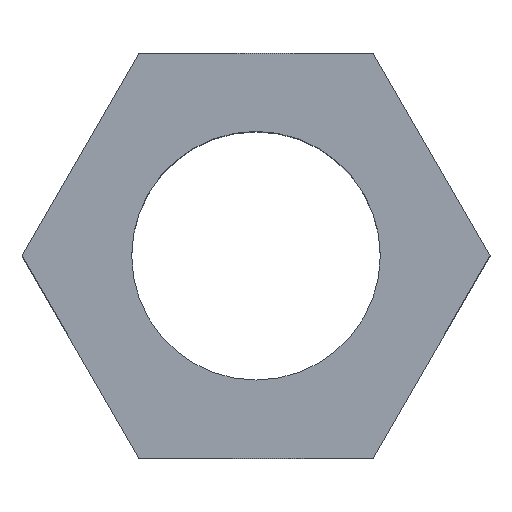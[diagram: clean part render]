
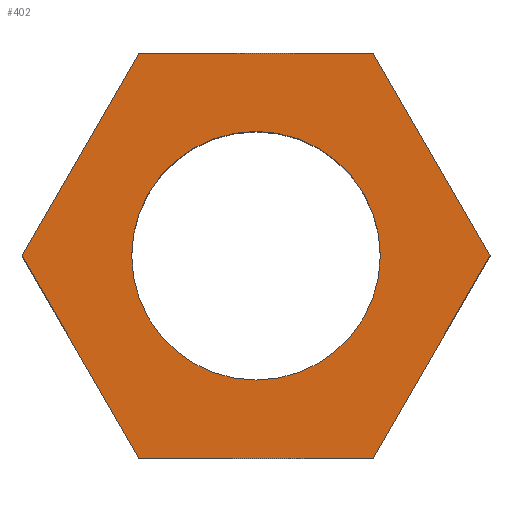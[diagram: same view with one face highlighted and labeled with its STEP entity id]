
A CAD part, top view. The second image highlights one B-rep face of the part: STEP entity #402.
In plain terms, the highlighted planar face has unit normal (0, 0, 1).
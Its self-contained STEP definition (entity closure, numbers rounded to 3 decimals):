
#24 = VERTEX_POINT('',#25);
#25 = CARTESIAN_POINT('',(-24.3,-17.5,4.002));
#32 = PLANE('',#33);
#33 = AXIS2_PLACEMENT_3D('',#34,#35,#36);
#34 = CARTESIAN_POINT('',(-24.3,-17.5,0.002));
#35 = DIRECTION('',(-0.866,-0.5,0.));
#36 = DIRECTION('',(-0.5,0.866,0.));
#44 = PLANE('',#45);
#45 = AXIS2_PLACEMENT_3D('',#46,#47,#48);
#46 = CARTESIAN_POINT('',(-25.9,-20.271,0.002));
#47 = DIRECTION('',(-0.866,0.5,0.));
#48 = DIRECTION('',(0.5,0.866,0.));
#56 = EDGE_CURVE('',#24,#57,#59,.T.);
#57 = VERTEX_POINT('',#58);
#58 = CARTESIAN_POINT('',(-25.9,-14.729,4.002));
#59 = SURFACE_CURVE('',#60,(#64,#71),.PCURVE_S1.);
#60 = LINE('',#61,#62);
#61 = CARTESIAN_POINT('',(-24.3,-17.5,4.002));
#62 = VECTOR('',#63,1.);
#63 = DIRECTION('',(-0.5,0.866,0.));
#64 = PCURVE('',#32,#65);
#65 = DEFINITIONAL_REPRESENTATION('',(#66),#70);
#66 = LINE('',#67,#68);
#67 = CARTESIAN_POINT('',(0.,-4.));
#68 = VECTOR('',#69,1.);
#69 = DIRECTION('',(1.,0.));
#70 = ( GEOMETRIC_REPRESENTATION_CONTEXT(2) 
PARAMETRIC_REPRESENTATION_CONTEXT() REPRESENTATION_CONTEXT('2D SPACE',''
  ) );
#71 = PCURVE('',#72,#77);
#72 = PLANE('',#73);
#73 = AXIS2_PLACEMENT_3D('',#74,#75,#76);
#74 = CARTESIAN_POINT('',(-27.5,-17.5,4.002));
#75 = DIRECTION('',(0.,0.,1.));
#76 = DIRECTION('',(1.,0.,-0.));
#77 = DEFINITIONAL_REPRESENTATION('',(#78),#82);
#78 = LINE('',#79,#80);
#79 = CARTESIAN_POINT('',(3.2,0.));
#80 = VECTOR('',#81,1.);
#81 = DIRECTION('',(-0.5,0.866));
#82 = ( GEOMETRIC_REPRESENTATION_CONTEXT(2) 
PARAMETRIC_REPRESENTATION_CONTEXT() REPRESENTATION_CONTEXT('2D SPACE',''
  ) );
#100 = PLANE('',#101);
#101 = AXIS2_PLACEMENT_3D('',#102,#103,#104);
#102 = CARTESIAN_POINT('',(-25.9,-14.729,0.002));
#103 = DIRECTION('',(0.,-1.,0.));
#104 = DIRECTION('',(-1.,0.,0.));
#144 = VERTEX_POINT('',#145);
#145 = CARTESIAN_POINT('',(-25.9,-20.271,4.002));
#159 = PLANE('',#160);
#160 = AXIS2_PLACEMENT_3D('',#161,#162,#163);
#161 = CARTESIAN_POINT('',(-29.1,-20.271,0.002));
#162 = DIRECTION('',(0.,1.,-0.));
#163 = DIRECTION('',(1.,0.,0.));
#171 = EDGE_CURVE('',#144,#24,#172,.T.);
#172 = SURFACE_CURVE('',#173,(#177,#184),.PCURVE_S1.);
#173 = LINE('',#174,#175);
#174 = CARTESIAN_POINT('',(-25.9,-20.271,4.002));
#175 = VECTOR('',#176,1.);
#176 = DIRECTION('',(0.5,0.866,0.));
#177 = PCURVE('',#44,#178);
#178 = DEFINITIONAL_REPRESENTATION('',(#179),#183);
#179 = LINE('',#180,#181);
#180 = CARTESIAN_POINT('',(0.,-4.));
#181 = VECTOR('',#182,1.);
#182 = DIRECTION('',(1.,0.));
#183 = ( GEOMETRIC_REPRESENTATION_CONTEXT(2) 
PARAMETRIC_REPRESENTATION_CONTEXT() REPRESENTATION_CONTEXT('2D SPACE',''
  ) );
#184 = PCURVE('',#72,#185);
#185 = DEFINITIONAL_REPRESENTATION('',(#186),#190);
#186 = LINE('',#187,#188);
#187 = CARTESIAN_POINT('',(1.6,-2.771));
#188 = VECTOR('',#189,1.);
#189 = DIRECTION('',(0.5,0.866));
#190 = ( GEOMETRIC_REPRESENTATION_CONTEXT(2) 
PARAMETRIC_REPRESENTATION_CONTEXT() REPRESENTATION_CONTEXT('2D SPACE',''
  ) );
#218 = EDGE_CURVE('',#57,#219,#221,.T.);
#219 = VERTEX_POINT('',#220);
#220 = CARTESIAN_POINT('',(-29.1,-14.729,4.002));
#221 = SURFACE_CURVE('',#222,(#226,#233),.PCURVE_S1.);
#222 = LINE('',#223,#224);
#223 = CARTESIAN_POINT('',(-25.9,-14.729,4.002));
#224 = VECTOR('',#225,1.);
#225 = DIRECTION('',(-1.,0.,0.));
#226 = PCURVE('',#100,#227);
#227 = DEFINITIONAL_REPRESENTATION('',(#228),#232);
#228 = LINE('',#229,#230);
#229 = CARTESIAN_POINT('',(0.,-4.));
#230 = VECTOR('',#231,1.);
#231 = DIRECTION('',(1.,0.));
#232 = ( GEOMETRIC_REPRESENTATION_CONTEXT(2) 
PARAMETRIC_REPRESENTATION_CONTEXT() REPRESENTATION_CONTEXT('2D SPACE',''
  ) );
#233 = PCURVE('',#72,#234);
#234 = DEFINITIONAL_REPRESENTATION('',(#235),#239);
#235 = LINE('',#236,#237);
#236 = CARTESIAN_POINT('',(1.6,2.771));
#237 = VECTOR('',#238,1.);
#238 = DIRECTION('',(-1.,0.));
#239 = ( GEOMETRIC_REPRESENTATION_CONTEXT(2) 
PARAMETRIC_REPRESENTATION_CONTEXT() REPRESENTATION_CONTEXT('2D SPACE',''
  ) );
#257 = PLANE('',#258);
#258 = AXIS2_PLACEMENT_3D('',#259,#260,#261);
#259 = CARTESIAN_POINT('',(-29.1,-14.729,0.002));
#260 = DIRECTION('',(0.866,-0.5,0.));
#261 = DIRECTION('',(-0.5,-0.866,0.));
#334 = PLANE('',#335);
#335 = AXIS2_PLACEMENT_3D('',#336,#337,#338);
#336 = CARTESIAN_POINT('',(-30.7,-17.5,0.002));
#337 = DIRECTION('',(0.866,0.5,-0.));
#338 = DIRECTION('',(0.5,-0.866,0.));
#391 = CYLINDRICAL_SURFACE('',#392,1.7);
#392 = AXIS2_PLACEMENT_3D('',#393,#394,#395);
#393 = CARTESIAN_POINT('',(-27.5,-17.5,-0.998));
#394 = DIRECTION('',(-0.,-0.,-1.));
#395 = DIRECTION('',(1.,0.,0.));
#402 = ADVANCED_FACE('',(#403,#475),#72,.T.);
#403 = FACE_BOUND('',#404,.T.);
#404 = EDGE_LOOP('',(#405,#406,#407,#430,#453,#474));
#405 = ORIENTED_EDGE('',*,*,#56,.T.);
#406 = ORIENTED_EDGE('',*,*,#218,.T.);
#407 = ORIENTED_EDGE('',*,*,#408,.T.);
#408 = EDGE_CURVE('',#219,#409,#411,.T.);
#409 = VERTEX_POINT('',#410);
#410 = CARTESIAN_POINT('',(-30.7,-17.5,4.002));
#411 = SURFACE_CURVE('',#412,(#416,#423),.PCURVE_S1.);
#412 = LINE('',#413,#414);
#413 = CARTESIAN_POINT('',(-29.1,-14.729,4.002));
#414 = VECTOR('',#415,1.);
#415 = DIRECTION('',(-0.5,-0.866,0.));
#416 = PCURVE('',#72,#417);
#417 = DEFINITIONAL_REPRESENTATION('',(#418),#422);
#418 = LINE('',#419,#420);
#419 = CARTESIAN_POINT('',(-1.6,2.771));
#420 = VECTOR('',#421,1.);
#421 = DIRECTION('',(-0.5,-0.866));
#422 = ( GEOMETRIC_REPRESENTATION_CONTEXT(2) 
PARAMETRIC_REPRESENTATION_CONTEXT() REPRESENTATION_CONTEXT('2D SPACE',''
  ) );
#423 = PCURVE('',#257,#424);
#424 = DEFINITIONAL_REPRESENTATION('',(#425),#429);
#425 = LINE('',#426,#427);
#426 = CARTESIAN_POINT('',(0.,-4.));
#427 = VECTOR('',#428,1.);
#428 = DIRECTION('',(1.,0.));
#429 = ( GEOMETRIC_REPRESENTATION_CONTEXT(2) 
PARAMETRIC_REPRESENTATION_CONTEXT() REPRESENTATION_CONTEXT('2D SPACE',''
  ) );
#430 = ORIENTED_EDGE('',*,*,#431,.T.);
#431 = EDGE_CURVE('',#409,#432,#434,.T.);
#432 = VERTEX_POINT('',#433);
#433 = CARTESIAN_POINT('',(-29.1,-20.271,4.002));
#434 = SURFACE_CURVE('',#435,(#439,#446),.PCURVE_S1.);
#435 = LINE('',#436,#437);
#436 = CARTESIAN_POINT('',(-30.7,-17.5,4.002));
#437 = VECTOR('',#438,1.);
#438 = DIRECTION('',(0.5,-0.866,0.));
#439 = PCURVE('',#72,#440);
#440 = DEFINITIONAL_REPRESENTATION('',(#441),#445);
#441 = LINE('',#442,#443);
#442 = CARTESIAN_POINT('',(-3.2,0.));
#443 = VECTOR('',#444,1.);
#444 = DIRECTION('',(0.5,-0.866));
#445 = ( GEOMETRIC_REPRESENTATION_CONTEXT(2) 
PARAMETRIC_REPRESENTATION_CONTEXT() REPRESENTATION_CONTEXT('2D SPACE',''
  ) );
#446 = PCURVE('',#334,#447);
#447 = DEFINITIONAL_REPRESENTATION('',(#448),#452);
#448 = LINE('',#449,#450);
#449 = CARTESIAN_POINT('',(0.,-4.));
#450 = VECTOR('',#451,1.);
#451 = DIRECTION('',(1.,0.));
#452 = ( GEOMETRIC_REPRESENTATION_CONTEXT(2) 
PARAMETRIC_REPRESENTATION_CONTEXT() REPRESENTATION_CONTEXT('2D SPACE',''
  ) );
#453 = ORIENTED_EDGE('',*,*,#454,.T.);
#454 = EDGE_CURVE('',#432,#144,#455,.T.);
#455 = SURFACE_CURVE('',#456,(#460,#467),.PCURVE_S1.);
#456 = LINE('',#457,#458);
#457 = CARTESIAN_POINT('',(-29.1,-20.271,4.002));
#458 = VECTOR('',#459,1.);
#459 = DIRECTION('',(1.,0.,0.));
#460 = PCURVE('',#72,#461);
#461 = DEFINITIONAL_REPRESENTATION('',(#462),#466);
#462 = LINE('',#463,#464);
#463 = CARTESIAN_POINT('',(-1.6,-2.771));
#464 = VECTOR('',#465,1.);
#465 = DIRECTION('',(1.,0.));
#466 = ( GEOMETRIC_REPRESENTATION_CONTEXT(2) 
PARAMETRIC_REPRESENTATION_CONTEXT() REPRESENTATION_CONTEXT('2D SPACE',''
  ) );
#467 = PCURVE('',#159,#468);
#468 = DEFINITIONAL_REPRESENTATION('',(#469),#473);
#469 = LINE('',#470,#471);
#470 = CARTESIAN_POINT('',(0.,-4.));
#471 = VECTOR('',#472,1.);
#472 = DIRECTION('',(1.,0.));
#473 = ( GEOMETRIC_REPRESENTATION_CONTEXT(2) 
PARAMETRIC_REPRESENTATION_CONTEXT() REPRESENTATION_CONTEXT('2D SPACE',''
  ) );
#474 = ORIENTED_EDGE('',*,*,#171,.T.);
#475 = FACE_BOUND('',#476,.T.);
#476 = EDGE_LOOP('',(#477));
#477 = ORIENTED_EDGE('',*,*,#478,.T.);
#478 = EDGE_CURVE('',#479,#479,#481,.T.);
#479 = VERTEX_POINT('',#480);
#480 = CARTESIAN_POINT('',(-25.8,-17.5,4.002));
#481 = SURFACE_CURVE('',#482,(#487,#498),.PCURVE_S1.);
#482 = CIRCLE('',#483,1.7);
#483 = AXIS2_PLACEMENT_3D('',#484,#485,#486);
#484 = CARTESIAN_POINT('',(-27.5,-17.5,4.002));
#485 = DIRECTION('',(0.,0.,-1.));
#486 = DIRECTION('',(1.,0.,0.));
#487 = PCURVE('',#72,#488);
#488 = DEFINITIONAL_REPRESENTATION('',(#489),#497);
#489 = ( BOUNDED_CURVE() B_SPLINE_CURVE(2,(#490,#491,#492,#493,#494,#495
,#496),.UNSPECIFIED.,.T.,.F.) B_SPLINE_CURVE_WITH_KNOTS((1,2,2,2,2,1),(
    -2.094,0.,2.094,4.189,6.283,
8.378),.UNSPECIFIED.) CURVE() GEOMETRIC_REPRESENTATION_ITEM() 
RATIONAL_B_SPLINE_CURVE((1.,0.5,1.,0.5,1.,0.5,1.)) REPRESENTATION_ITEM(
  '') );
#490 = CARTESIAN_POINT('',(1.7,0.));
#491 = CARTESIAN_POINT('',(1.7,-2.944));
#492 = CARTESIAN_POINT('',(-0.85,-1.472));
#493 = CARTESIAN_POINT('',(-3.4,0.));
#494 = CARTESIAN_POINT('',(-0.85,1.472));
#495 = CARTESIAN_POINT('',(1.7,2.944));
#496 = CARTESIAN_POINT('',(1.7,0.));
#497 = ( GEOMETRIC_REPRESENTATION_CONTEXT(2) 
PARAMETRIC_REPRESENTATION_CONTEXT() REPRESENTATION_CONTEXT('2D SPACE',''
  ) );
#498 = PCURVE('',#391,#499);
#499 = DEFINITIONAL_REPRESENTATION('',(#500),#504);
#500 = LINE('',#501,#502);
#501 = CARTESIAN_POINT('',(-6.283,-5.));
#502 = VECTOR('',#503,1.);
#503 = DIRECTION('',(1.,-0.));
#504 = ( GEOMETRIC_REPRESENTATION_CONTEXT(2) 
PARAMETRIC_REPRESENTATION_CONTEXT() REPRESENTATION_CONTEXT('2D SPACE',''
  ) );
